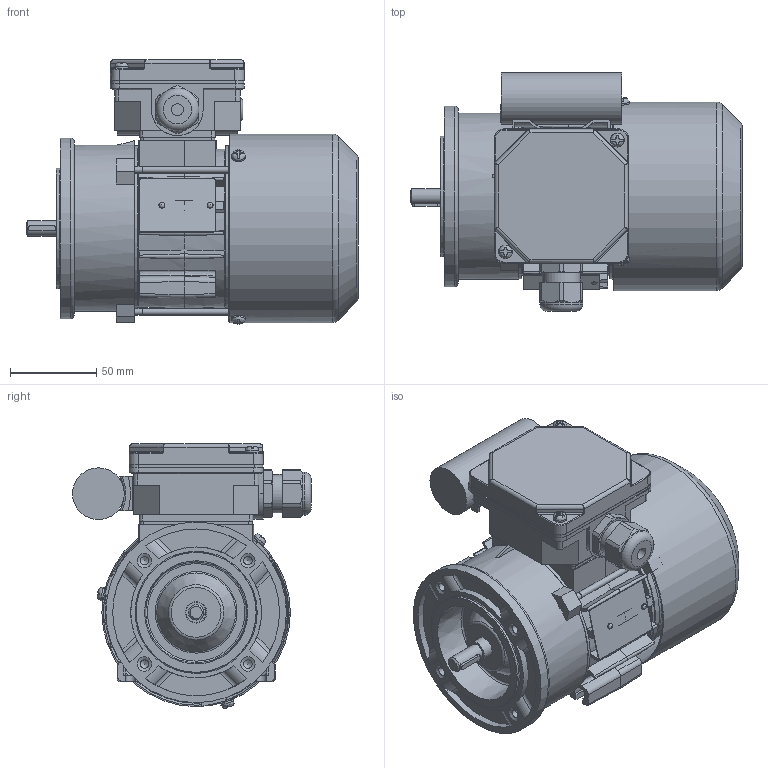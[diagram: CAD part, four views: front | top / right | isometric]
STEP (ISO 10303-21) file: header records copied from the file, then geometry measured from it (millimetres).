
FILE_DESCRIPTION( ( 'Unknown' ), '1' );
FILE_NAME( 'G:/Poczta Tk-1/STP/w.m.56/SEh56/SE(M)Kh56-B1.stp', 'Unknown', ( 'K. Szlosek' ), ( 'BESEL S.A.' ), 'PSStep 17.0.49', 'Unknown', ' ' );
FILE_SCHEMA( ( 'AUTOMOTIVE_DESIGN { 1 0 10303 214 1 1 1 1 }' ) );
Length unit declared in the file: millimetre
Products named in the file (31): Assem1; K4-2320 Uszczelka nr 1 Sh71,80; K3-9987 kadłub ze stojanem Sh56-B; K3-2193 Tarcza łożyskowa P Sg56-2..; K3-9990 wał Sh56-B; K2-0860 Pokrywka skrzynki zaciskowej; Wpust A3x3x16; K3-2977 Osłona przewietrznika Sg56; K4-2820 Uszczelka nr 2 Sh71,80; Wkręt samogwintujący M4x8; Wkręt samogwintujący M4x16; K2-0879 Przewietrznik Sg56; Nitokołek A 2x6; K3-9440 Podstawa  skrzynki zaciskowej SEhR71-D; K4-0898 Tulejka uszczelniająca; K3-1974 Uchwyt kondensatora (mały); Kondensator bb 8uF; K1-0529 Tarcza kołnierzowa B14_1 SKg56-..1; Śruba ściągająca E_M4x75; Tabliczka znamionowa 32x44; Dławnica M20x1,5; Łożysko 6201
Assembly tree (46 placements, depth 2):
  Assem1
    K4-2320 Uszczelka nr 1 Sh71,80
    K3-9987 kadłub ze stojanem Sh56-B
    K3-2193 Tarcza łożyskowa P Sg56-2..
    K3-9990 wał Sh56-B
    K2-0860 Pokrywka skrzynki zaciskowej
    Wpust A3x3x16
    K3-2977 Osłona przewietrznika Sg56
    K4-2820 Uszczelka nr 2 Sh71,80
    Wkręt samogwintujący M4x8  x3
    Wkręt samogwintujący M4x16  x2
    K2-0879 Przewietrznik Sg56
    Nitokołek A 2x6  x2
    K3-9440 Podstawa  skrzynki zaciskowej SEhR71-D
    K4-0898 Tulejka uszczelniająca
    K3-1974 Uchwyt kondensatora (mały)
    Kondensator bb 8uF
    K1-0529 Tarcza kołnierzowa B14_1 SKg56-..1
    Śruba ściągająca E_M4x75  x3
    Tabliczka znamionowa 32x44
    Dławnica M20x1,5
    Łożysko 6201  x2
    Łożysko 6201  x2
    Łożysko 6201  x2
    Łożysko 6201  x2
    Łożysko 6201  x2
    Łożysko 6201  x2
    Łożysko 6201  x2
    Łożysko 6201  x2
    Łożysko 6201  x2
    Łożysko 6201  x2
Bounding box: 193 x 138.82 x 153.72 mm (x, y, z)
Volume: 485156.4 mm3; surface area: 313610.7 mm2
Topology: 46 solids, 62 shells, 1793 faces, 4817 edges, 3103 vertices
Faces by surface type: plane 916, cylinder 529, torus 128, cone 108, bspline 78, sphere 34
Full cylindrical faces by diameter (mm): 2 x2, 2.4 x2, 3 x1, 3.242 x3, 3.5 x2, 3.7 x10, 4 x8, 4.5 x4, 4.6 x1, 4.8 x4, 4.917 x4, 5 x4, 6.5 x1, 7 x4, 8 x6, 9 x1, 10 x2, 10.9 x1, 11 x1, 11.5 x1, 11.8 x2, 12 x4, 12.4 x2, 15.5 x1, 16 x1, 16.1 x1, 17 x2, 18.38 x1, 18.5 x1, 18.52 x4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
Entity records: 74841 total; most frequent: CARTESIAN_POINT 22012, DIRECTION 8315, ORIENTED_EDGE 8204, EDGE_CURVE 4102, AXIS2_PLACEMENT_3D 3094, VERTEX_POINT 2784, LINE 2127, VECTOR 2127
